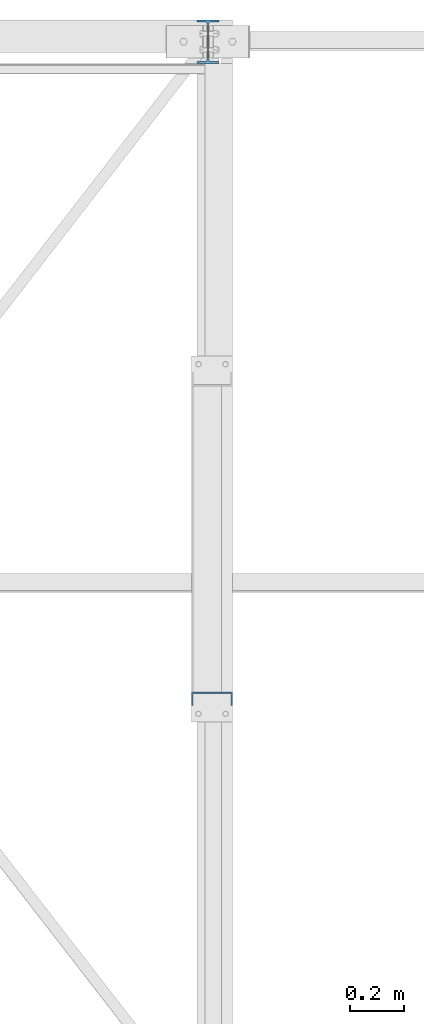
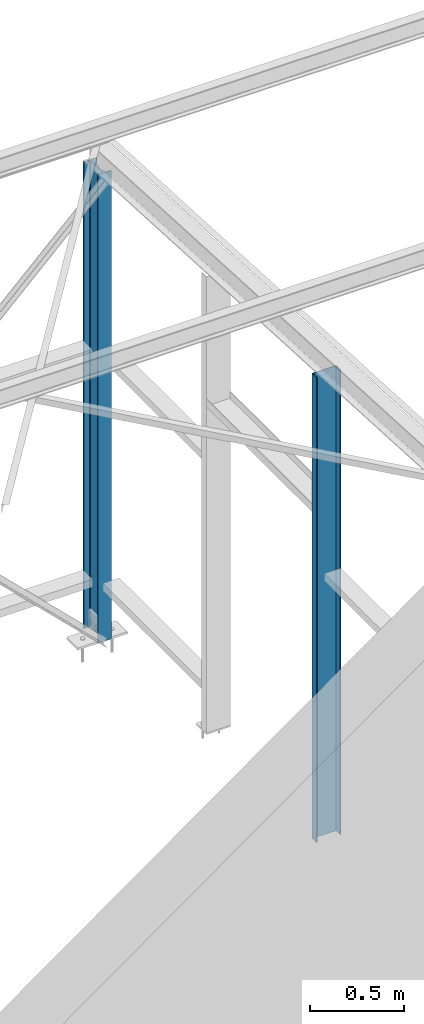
# One storey, part 15 of 123: 2 columns, 2 elements without a shape of their own.
"""IFC2X3 building model written with IfcOpenShell, lengths in millimetres."""

import ifcopenshell
import ifcopenshell.guid

model = None  # the IFC model being written
_history = None  # IfcOwnerHistory: only IFC2X3 demands one
_inside = {}  # id of a spatial element -> (the spatial element, [elements in it])
_under = {}  # id of a project, library or spatial element -> (it, [spatial elements below it])
_declared = {}  # id of a project -> (the project, [libraries it declares])
_typed = {}  # id of a type object -> (the type object, [elements of that type])
_made_of = {}  # id of a material, layer set ... -> (it, [elements and type objects made of it])


def new_model(schema):
    """Start an empty IFC model of exactly this schema.

    Asked for "IFC4X3", IfcOpenShell would pick the latest addendum, in which some entities
    have other attributes; the version numbers below select the first issue.
    IFC2X3 requires an IfcOwnerHistory on every rooted entity: one is made here for all.
    """
    global model, _history
    if schema == "IFC4X3":
        model = ifcopenshell.file(schema_version=(4, 3, 0, 0))
    else:
        model = ifcopenshell.file(schema=schema)
    _inside.clear()
    _under.clear()
    _declared.clear()
    _typed.clear()
    _made_of.clear()
    _history = None
    if model.schema == "IFC2X3":
        org = make("IfcOrganization", Name="unknown")
        user = make(
            "IfcPersonAndOrganization",
            ThePerson=make("IfcPerson", FamilyName="unknown"),
            TheOrganization=org,
        )
        app = make(
            "IfcApplication",
            ApplicationDeveloper=org,
            Version="unknown",
            ApplicationFullName="unknown",
            ApplicationIdentifier="unknown",
        )
        _history = make(
            "IfcOwnerHistory",
            OwningUser=user,
            OwningApplication=app,
            ChangeAction="ADDED",
            CreationDate=0,
        )
    return model


def make(cls, **values):
    """One entity of the class cls with the attributes given. An attribute that is None is left unset."""
    return model.create_entity(
        cls, **{name: value for name, value in values.items() if value is not None}
    )


def rooted(cls, **values):
    """An entity with a GlobalId (a new one), such as an element, a storey or a relation."""
    return make(cls, GlobalId=ifcopenshell.guid.new(), OwnerHistory=_history, **values)


def si_unit(unit_type, name, prefix=None):
    """IfcSIUnit, for example si_unit("LENGTHUNIT", "METRE", prefix="MILLI")."""
    return make("IfcSIUnit", UnitType=unit_type, Prefix=prefix, Name=name)


def assignment(units):
    """IfcUnitAssignment: the units of a project."""
    return None if units is None else make("IfcUnitAssignment", Units=units)


def point(xyz):
    """IfcCartesianPoint."""
    return None if xyz is None else make("IfcCartesianPoint", Coordinates=xyz)


def direction(xyz):
    """IfcDirection."""
    return None if xyz is None else make("IfcDirection", DirectionRatios=xyz)


def frame(location, z_axis=None, x_axis=None):
    """IfcAxis2Placement3D, a coordinate frame: its origin and axes. An axis left out is left unset."""
    return make(
        "IfcAxis2Placement3D",
        Location=point(location),
        Axis=direction(z_axis),
        RefDirection=direction(x_axis),
    )


def frame_2d(location, x_axis=None):
    """IfcAxis2Placement2D, a coordinate frame in the plane: its origin and x axis."""
    return make(
        "IfcAxis2Placement2D", Location=point(location), RefDirection=direction(x_axis)
    )


def origin_with_axes():
    """The frame at (0, 0, 0) with the z axis (0, 0, 1) and the x axis (1, 0, 0) written out."""
    return frame((0.0, 0.0, 0.0), z_axis=(0.0, 0.0, 1.0), x_axis=(1.0, 0.0, 0.0))


def origin_2d_with_axis():
    """The frame at (0, 0) in the plane with the x axis (1, 0) written out."""
    return frame_2d((0.0, 0.0), x_axis=(1.0, 0.0))


def place(relative_to, where):
    """IfcLocalPlacement: puts the frame where relative to a parent placement (None: the world)."""
    return make(
        "IfcLocalPlacement", PlacementRelTo=relative_to, RelativePlacement=where
    )


def context(
    kind, dimensions, precision=None, world=None, true_north=None, identifier=None
):
    """IfcGeometricRepresentationContext, for example the 3D "Model" context."""
    return make(
        "IfcGeometricRepresentationContext",
        ContextIdentifier=identifier,
        ContextType=kind,
        CoordinateSpaceDimension=dimensions,
        Precision=precision,
        WorldCoordinateSystem=world,
        TrueNorth=true_north,
    )


def subcontext(parent, identifier, kind, view, scale=None):
    """IfcGeometricRepresentationSubContext, for example "Body" below "Model"."""
    return make(
        "IfcGeometricRepresentationSubContext",
        ContextIdentifier=identifier,
        ContextType=kind,
        ParentContext=parent,
        TargetScale=scale,
        TargetView=view,
    )


def project(units=None, contexts=None):
    """IfcProject with its units and contexts."""
    return rooted(
        "IfcProject",
        Name="project",
        RepresentationContexts=contexts,
        UnitsInContext=assignment(units),
    )


def spatial(cls, under=None, at=None, **own):
    """A site, building, storey or space (cls), placed at a placement, below another one or the project."""
    s = rooted(cls, ObjectPlacement=at, **own)
    if under is not None:
        _under.setdefault(under.id(), (under, []))[1].append(s)
    return s


def profile(cls, at=None, kind="AREA", **sizes):
    """A parametric profile (cls). Its sizes go by their IFC names, for example OverallWidth=200.0."""
    return make(cls, ProfileType=kind, Position=at, **sizes)


def i_section(**sizes):
    """IfcIShapeProfileDef."""
    return profile("IfcIShapeProfileDef", **sizes)


def u_section(**sizes):
    """IfcUShapeProfileDef."""
    return profile("IfcUShapeProfileDef", **sizes)


def extrude(swept, where, along, depth):
    """IfcExtrudedAreaSolid: the profile swept, set in the frame where, extruded along a direction by depth."""
    return make(
        "IfcExtrudedAreaSolid",
        SweptArea=swept,
        Position=where,
        ExtrudedDirection=direction(along),
        Depth=depth,
    )


def clip(a, b, op="DIFFERENCE"):
    """IfcBooleanClippingResult: the solid a cut by the half space b."""
    return make(
        "IfcBooleanClippingResult", Operator=op, FirstOperand=a, SecondOperand=b
    )


def halfspace(plane, agree):
    """IfcHalfSpaceSolid: all space on one side of the plane z = 0 of the frame plane."""
    return make(
        "IfcHalfSpaceSolid",
        BaseSurface=make("IfcPlane", Position=plane),
        AgreementFlag=agree,
    )


def shape(context_of_items, identifier, shape_type, items):
    """IfcShapeRepresentation: the items that make up one representation, for example the "Body"."""
    return make(
        "IfcShapeRepresentation",
        ContextOfItems=context_of_items,
        RepresentationIdentifier=identifier,
        RepresentationType=shape_type,
        Items=items,
    )


def material(Name=None, Category=None):
    """IfcMaterial."""
    return make("IfcMaterial", Name=Name, Category=Category)


def made_of(thing, what):
    """Note that an element or type object is made of a material, layer set ...; save() writes the relation."""
    if what is not None:
        _made_of.setdefault(what.id(), (what, []))[1].append(thing)
    return thing


def type_object(cls, material=None, **own):
    """A type object (cls), such as IfcWallType, which elements share."""
    return made_of(rooted(cls, **own), material)


def element(
    cls,
    number,
    at=None,
    inside=None,
    cuts=None,
    type_object=None,
    material=None,
    context=None,
    identifier="Body",
    shape_type=None,
    held_by="IfcProductDefinitionShape",
    body=None,
    shapes=None,
    **own,
):
    """One element of the class cls, such as IfcWall. Its Tag is "e" and its number.

    at: its placement. inside: the storey or other place that contains it. cuts: it is an
    opening in that element (IfcRelVoidsElement). A single representation is given by context,
    identifier, shape_type and body (its items); several are given by shapes. held_by: the class
    of the entity that holds the representations. save() writes the other relations.
    """
    e = rooted(cls, Tag="e%d" % number, ObjectPlacement=at, **own)
    if body is not None:
        shapes = [shape(context, identifier, shape_type, body)]
    if shapes is not None:
        e.Representation = make(held_by, Representations=shapes)
    if inside is not None:
        _inside.setdefault(inside.id(), (inside, []))[1].append(e)
    if cuts is not None:
        rooted(
            "IfcRelVoidsElement", RelatingBuildingElement=cuts, RelatedOpeningElement=e
        )
    if type_object is not None:
        _typed.setdefault(type_object.id(), (type_object, []))[1].append(e)
    return made_of(e, material)


def aggregate(whole, parts):
    """IfcRelAggregates: a whole, such as a stair, and the parts it consists of."""
    return rooted("IfcRelAggregates", RelatingObject=whole, RelatedObjects=parts)


def save(model, path):
    """Write the relations noted so far, then the file.

    IfcRelAggregates (storeys below a building ...), IfcRelContainedInSpatialStructure (elements
    in a storey), IfcRelDefinesByType, IfcRelAssociatesMaterial and IfcRelDeclares: one each for
    every whole, place, type object, material and project.
    """
    for whole, parts in _under.values():
        aggregate(whole, parts)
    for where, things in _inside.values():
        rooted(
            "IfcRelContainedInSpatialStructure",
            RelatedElements=things,
            RelatingStructure=where,
        )
    for kind, things in _typed.values():
        rooted("IfcRelDefinesByType", RelatedObjects=things, RelatingType=kind)
    for what, things in _made_of.values():
        rooted("IfcRelAssociatesMaterial", RelatedObjects=things, RelatingMaterial=what)
    for by, libraries in _declared.values():
        rooted("IfcRelDeclares", RelatingContext=by, RelatedDefinitions=libraries)
    model.write(path)


model = new_model("IFC2X3")

# Units and contexts
model_context = context("Model", 3, precision=1e-05, world=origin_with_axes())
body_context = subcontext(model_context, "Body", "Model", "MODEL_VIEW")
ifc_project = project(units=[si_unit("LENGTHUNIT", "METRE", prefix="MILLI"), si_unit("AREAUNIT", "SQUARE_METRE"), si_unit("VOLUMEUNIT", "CUBIC_METRE"), si_unit("MASSUNIT", "GRAM", prefix="KILO"), si_unit("TIMEUNIT", "SECOND"), si_unit("PLANEANGLEUNIT", "RADIAN"), si_unit("SOLIDANGLEUNIT", "STERADIAN"), si_unit("THERMODYNAMICTEMPERATUREUNIT", "DEGREE_CELSIUS"), si_unit("LUMINOUSINTENSITYUNIT", "LUMEN")], contexts=[model_context])

# Site, building, storey
site_placement = place(None, origin_with_axes())
site = spatial("IfcSite", under=ifc_project, at=site_placement, Name="Undefined", CompositionType="ELEMENT")
building_placement = place(site_placement, origin_with_axes())
building = spatial("IfcBuilding", under=site, at=building_placement, Name="Undefined", CompositionType="ELEMENT")
storey_placement = place(building_placement, origin_with_axes())
storey = spatial("IfcBuildingStorey", under=building, at=storey_placement, Name="Undefined", CompositionType="ELEMENT", Elevation=0.0)

# Assembly, column
assembly_1_placement = place(storey_placement, origin_with_axes())
assembly_1 = element("IfcElementAssembly", 1, at=assembly_1_placement, inside=storey, Name="Steel Assembly", AssemblyPlace="NOTDEFINED", PredefinedType="RIGID_FRAME")
ifc_material_1 = material(Name="STEEL/S235-E24")
column_type_1 = type_object("IfcColumnType", Name="UPF-150*50*5", PredefinedType="NOTDEFINED")
column_1_placement = place(assembly_1_placement, frame((32044.9999688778, 26815.0000217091, -90.0), z_axis=(0.0, 0.0, 1.0), x_axis=(-1.0, 0.0, 0.0)))
column_1 = element("IfcColumn", 2, at=column_1_placement, type_object=column_type_1, material=ifc_material_1, Name="MONTANT", ObjectType="UPF-150*50*5", context=body_context, shape_type="SweptSolid", body=[
    extrude(u_section(Depth=150.0, FlangeWidth=50.0, WebThickness=5.0, FlangeThickness=5.0, at=origin_2d_with_axis()), frame((0.0, 0.0, 3035.49492857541), z_axis=(0.0, 0.0, -1.0), x_axis=(0.0, 1.0, 0.0)), (0.0, 0.0, 1.0), 3035.5),
])
aggregate(assembly_1, [column_1])

assembly_2_placement = place(storey_placement, origin_with_axes())
assembly_2 = element("IfcElementAssembly", 3, at=assembly_2_placement, inside=storey, Name="Steel Assembly", AssemblyPlace="NOTDEFINED", PredefinedType="RIGID_FRAME")
ifc_material_2 = material(Name="STEEL/S275-E28")
column_type_2 = type_object("IfcColumnType", Name="IPE160", PredefinedType="NOTDEFINED")
column_2_placement = place(assembly_2_placement, frame((32029.9999688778, 29240.0000217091, -230.0), z_axis=(0.0, 0.0, 1.0), x_axis=(0.0, 1.0, 0.0)))
column_2 = element("IfcColumn", 4, at=column_2_placement, type_object=column_type_2, material=ifc_material_2, Name="POTEAU", ObjectType="IPE160", context=body_context, shape_type="Clipping", body=[
    clip(extrude(i_section(OverallWidth=82.0, OverallDepth=160.0, WebThickness=5.0, FlangeThickness=7.400000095, FilletRadius=9.0, at=origin_2d_with_axis()), frame((0.0, 0.0, 3054.01302839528), z_axis=(0.0, 0.0, -1.0), x_axis=(0.0, 1.0, 0.0)), (0.0, 0.0, 1.0), 3054.0), halfspace(frame((-80.1093165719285, 3099.99999901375, 3053.97684858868), z_axis=(-0.0523092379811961, -3.66164599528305e-10, -0.998630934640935), x_axis=(0.0, -1.0, 0.0)), True)),
])
aggregate(assembly_2, [column_2])

save(model, "model.ifc")
